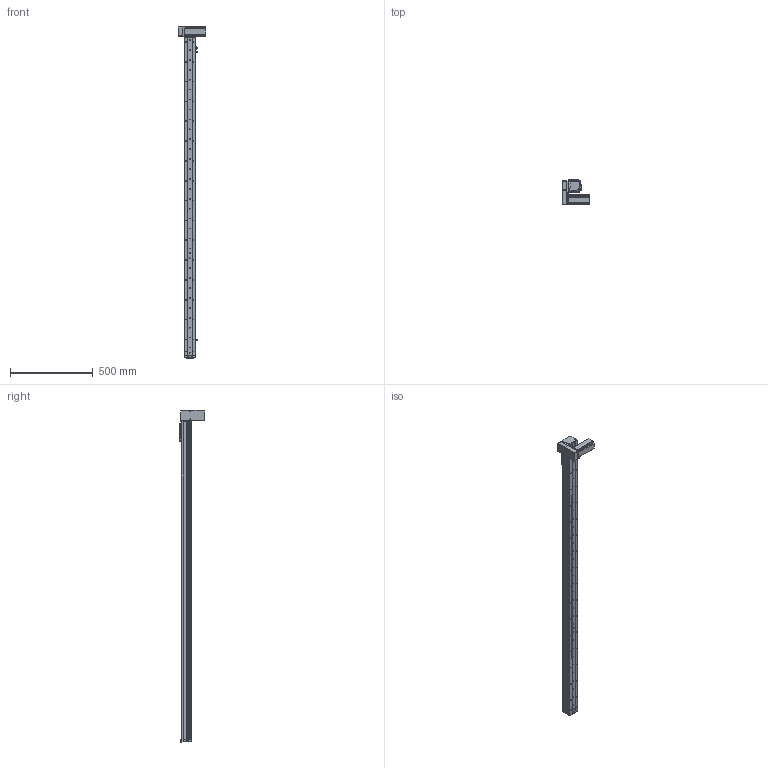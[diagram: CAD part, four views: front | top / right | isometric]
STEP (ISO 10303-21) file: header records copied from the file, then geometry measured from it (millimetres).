
FILE_DESCRIPTION (( 'STEP AP214' ), '1' );
FILE_NAME ('KSD68BS-S1750-MRD-CR.STEP', '2019-11-08T03:53:52', ( '微软用户' ), ( '微软中国' ), 'SwSTEP 2.0', 'SolidWorks 2014', '' );
FILE_SCHEMA (( 'AUTOMOTIVE_DESIGN' ));
Length unit declared in the file: millimetre
Products named in the file (14): 68遵裔啣揤啣1; 68宽单导轨全封闭丝杆传动安装板1防护罩; KSD68BS 1750行程侧板全封闭; 68宽单导轨全封闭同步带端板; 68单导轨全封闭同步带电机座右; 68单导轨全封闭同步带安装板; 悵誘欶奻狟殏; KSD68BS 1750行程盖板全封闭; 68宽马达安装板连板上折同步带; 感应片68宽全封闭; U倰嫖萇EEㄜSX672; 台达ECMA－C20604AS伺服电机（400W); KSD68BS 1750行程底板全封闭; KSD68BS-S1750-MRD-CR
Assembly tree (17 placements, depth 2):
  KSD68BS-S1750-MRD-CR
    KSD68BS 1750行程底板全封闭
    台达ECMA－C20604AS伺服电机（400W)
    U倰嫖萇EEㄜSX672  x3
    感应片68宽全封闭
    68宽马达安装板连板上折同步带
    悵誘欶奻狟殏
    68单导轨全封闭同步带安装板
    68单导轨全封闭同步带电机座右
    68宽单导轨全封闭同步带端板
    KSD68BS 1750行程侧板全封闭  x2
    68宽单导轨全封闭丝杆传动安装板1防护罩
    68遵裔啣揤啣1  x2
    KSD68BS 1750行程盖板全封闭
Bounding box: 167.2 x 155.5 x 2008.1 mm (x, y, z)
Volume: 3547629.9 mm3; surface area: 1448768.5 mm2
Topology: 18 solids, 18 shells, 1636 faces, 4729 edges, 3009 vertices
Faces by surface type: cylinder 809, plane 631, cone 196
Entity records: 53738 total; most frequent: CARTESIAN_POINT 9351, DIRECTION 7993, ORIENTED_EDGE 7646, EDGE_CURVE 3823, AXIS2_PLACEMENT_3D 2921, VERTEX_POINT 2507, LINE 2151, VECTOR 2151
